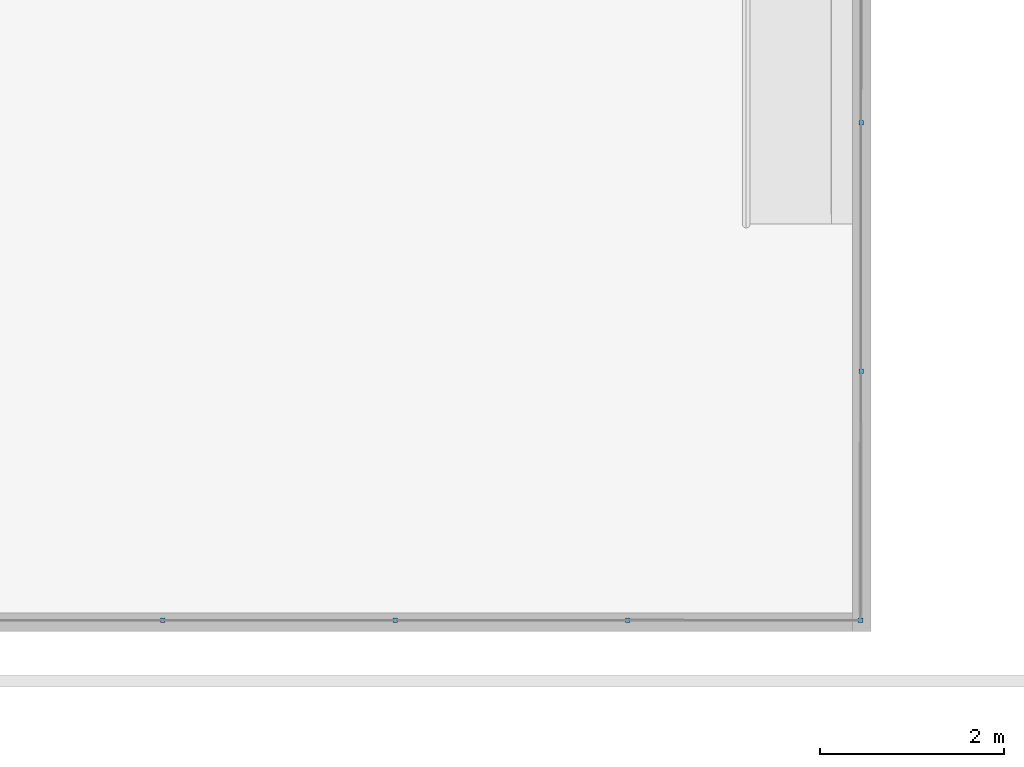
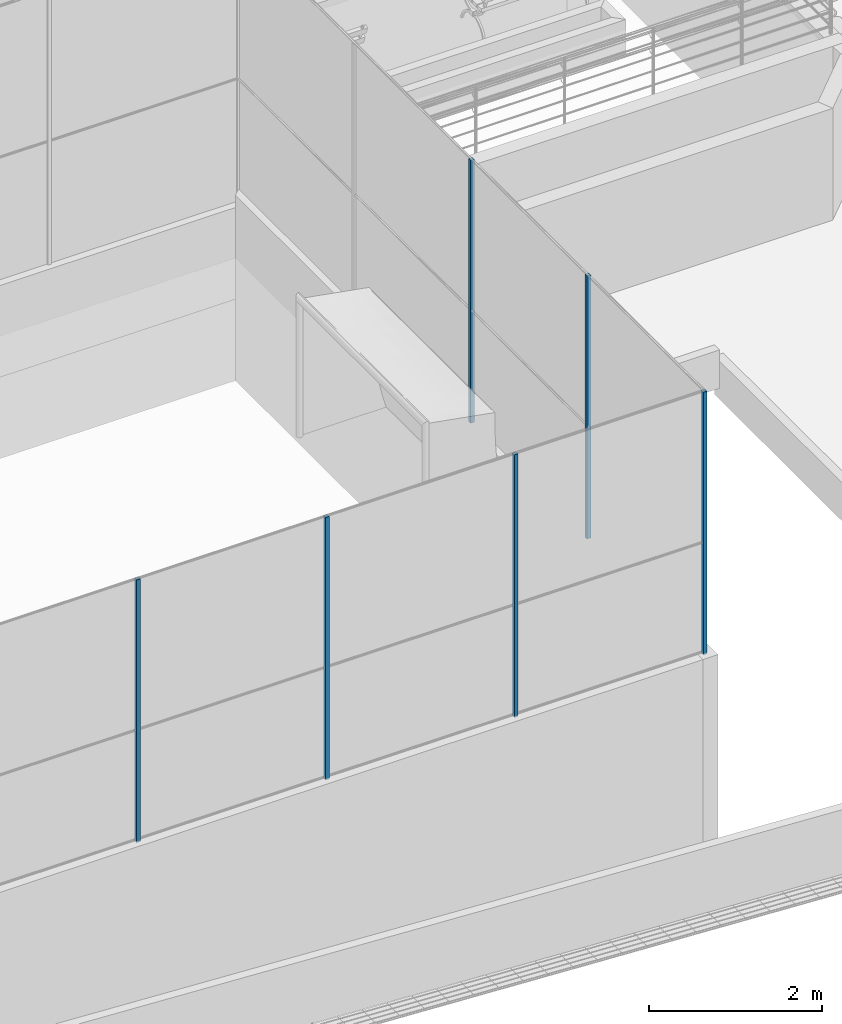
# One storey, part 3 of 237: 6 columns.
"""IFC2X3 building model written with IfcOpenShell, lengths in millimetres."""

from ifc_helpers import new_model, entity, si_unit, converted_unit, derived_unit, money_unit, direction, frame, origin_with_axes, origin_2d_with_axis, place, context, subcontext, project, spatial, rectangle, extrude, material, type_object, element, save


model = new_model("IFC2X3")

# Units and contexts
model_context = context("Model", 3, precision=0.01, world=origin_with_axes(), true_north=direction((0.0, 1.0)))
body_context = subcontext(model_context, "Body", "Model", "MODEL_VIEW")
ifc_project = project(units=[si_unit("LENGTHUNIT", "METRE", prefix="MILLI"), si_unit("AREAUNIT", "SQUARE_METRE"), si_unit("VOLUMEUNIT", "CUBIC_METRE"), converted_unit("PLANEANGLEUNIT", "DEGREE", entity("IfcPlaneAngleMeasure", 0.0174532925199), si_unit("PLANEANGLEUNIT", "RADIAN"), dimensions=[0, 0, 0, 0, 0, 0, 0]), money_unit("USD"), converted_unit("TIMEUNIT", "Year", entity("IfcTimeMeasure", 31556926.0), si_unit("TIMEUNIT", "SECOND"), dimensions=[0, 0, 1, 0, 0, 0, 0]), si_unit("MASSUNIT", "GRAM", prefix="KILO"), si_unit("THERMODYNAMICTEMPERATUREUNIT", "DEGREE_CELSIUS"), si_unit("LUMINOUSINTENSITYUNIT", "LUMEN"), si_unit("ENERGYUNIT", "JOULE", prefix="MEGA"), derived_unit("THERMALCONDUCTANCEUNIT", [(si_unit("POWERUNIT", "WATT"), 1), (si_unit("LENGTHUNIT", "METRE"), -1), (si_unit("THERMODYNAMICTEMPERATUREUNIT", "KELVIN"), -1)]), derived_unit("SPECIFICHEATCAPACITYUNIT", [(si_unit("ENERGYUNIT", "JOULE"), 1), (si_unit("MASSUNIT", "GRAM", prefix="KILO"), -1), (si_unit("THERMODYNAMICTEMPERATUREUNIT", "KELVIN"), -1)]), derived_unit("MASSDENSITYUNIT", [(si_unit("MASSUNIT", "GRAM", prefix="KILO"), 1), (si_unit("VOLUMEUNIT", "CUBIC_METRE"), -1)])], contexts=[model_context])

# Site, building, storey
site_placement = place(None, origin_with_axes())
site = spatial("IfcSite", under=ifc_project, at=site_placement, Name="Local", CompositionType="ELEMENT")
building_placement = place(site_placement, origin_with_axes())
building = spatial("IfcBuilding", under=site, at=building_placement, Name="Construção", CompositionType="ELEMENT")
storey_placement = place(building_placement, origin_with_axes())
storey = spatial("IfcBuildingStorey", under=building, at=storey_placement, Name="Pavimento Térreo", CompositionType="ELEMENT", Elevation=0.0)

# Columns
ifc_material = material(Name="Alumínio")
column_type = type_object("IfcColumnType", Name="Alumínio 50 x 50", PredefinedType="NOTDEFINED")
for number, where, z_axis, x_axis, name in (
    (1, (76128.8524328, 12746.9704756, -2742.28516207), (0.0, 0.0, 1.0), (1.0, 0.0, 0.0), "Pil-016"),
    (2, (78656.6006689, 12746.9704756, -2742.28516207), (0.0, 0.0, 1.0), (1.0, 0.0, 0.0), "Pil-016"),
    (3, (73601.1041968, 12746.9704756, -2742.28516207), (0.0, 0.0, 1.0), (1.0, 0.0, 0.0), "Pil-016"),
    (4, (71073.3559608, 12746.9704756, -2742.28516207), (0.0, 0.0, 1.0), (1.0, 0.0, 0.0), "Pil-016"),
    (5, (78663.5609707, 18153.7778692, -2742.28516207), (0.0, 0.0, 1.0), (1.0, 0.0, 0.0), "Pil-016"),
    (6, (78663.5609707, 15452.7217824, -2742.28516207), (0.0, 0.0, 1.0), (1.0, 0.0, 0.0), "Pil-016"),
):
    element("IfcColumn", number, at=place(storey_placement, frame(where, z_axis=z_axis, x_axis=x_axis)), inside=storey, type_object=column_type, material=ifc_material, Name=name, context=body_context, shape_type="SweptSolid", body=[
        extrude(rectangle(XDim=50.0, YDim=50.0, at=origin_2d_with_axis()), origin_with_axes(), (0.0, 0.0, 1.0), 3718.70739897),
    ])

save(model, "model.ifc")
